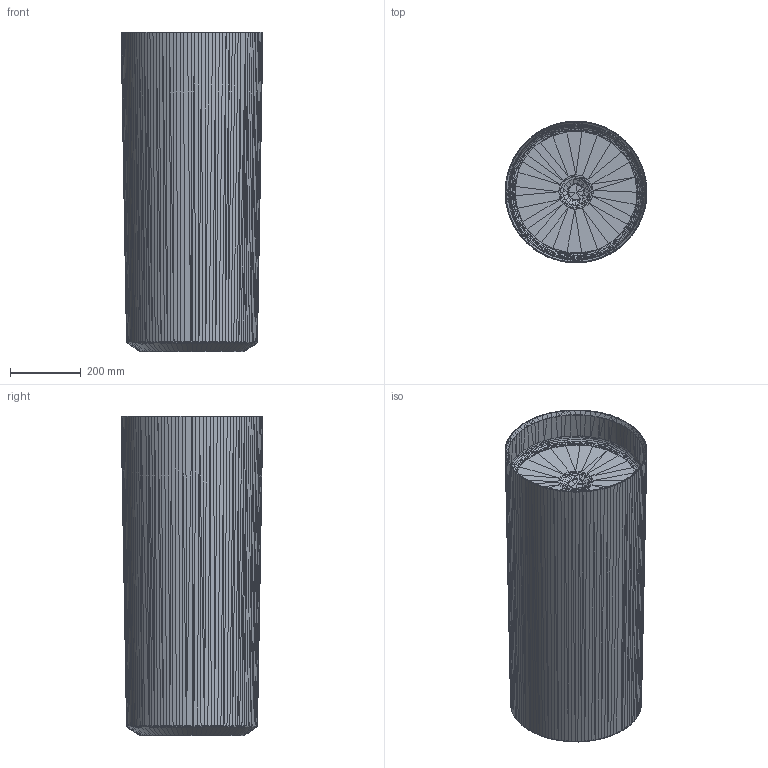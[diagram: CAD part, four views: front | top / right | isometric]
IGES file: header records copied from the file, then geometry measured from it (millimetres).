
Global section: file name: C:\Users\Sam Altman L JackSon\Downloads\Additional 2D and 3D files required for V+A NPD\Kerid 40 UK\Kerid 40 - 3d IGS.igs; native system: Rhinoceros ( Mar  4 2026 ); preprocessor: Trout Lake IGES 012 Mar  4 2026; date: 260508.105313; units: millimetre
Bounding box: 399.95 x 399.97 x 900.88 mm (x, y, z)
Surface area: 1403137.4 mm2 (no closed solid volume)
Topology: 0 solids, 0 shells, 2149 faces, 6906 edges, 6906 vertices
Faces by surface type: bspline 2149
